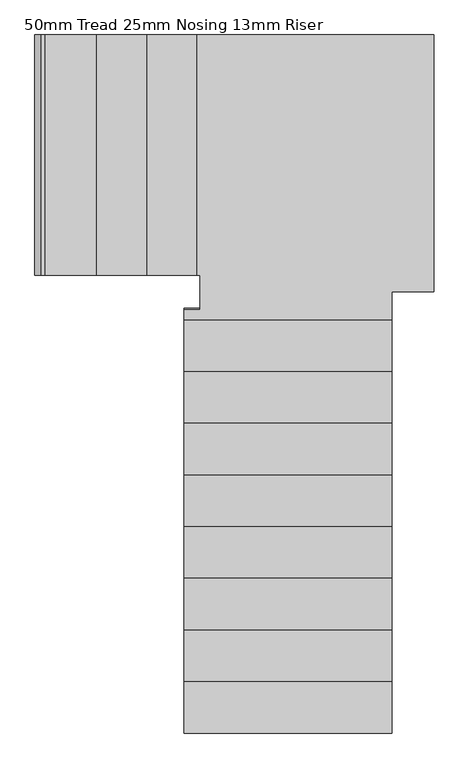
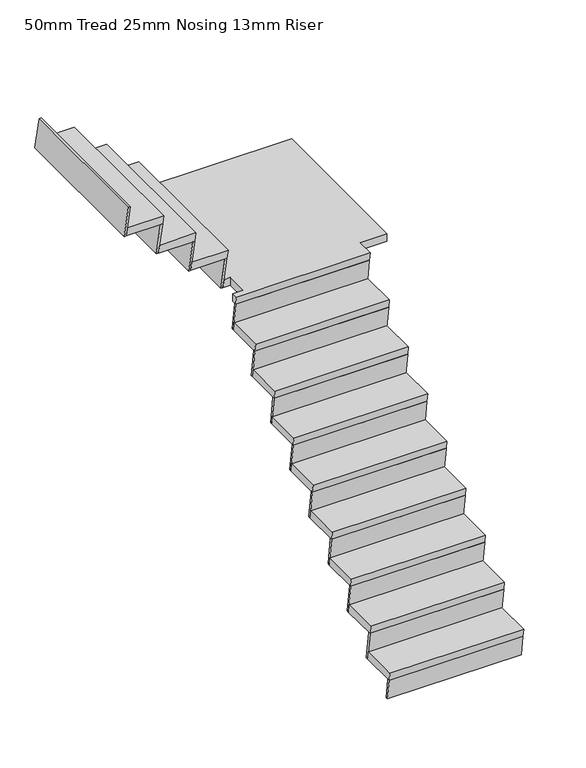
"""IFC4 building model written with IfcOpenShell, lengths in millimetres: stair flight geometry, 50mm Tread 25mm Nosing 13mm Riser."""

import ifcopenshell
import ifcopenshell.guid

model = None  # the IFC model being written
_history = None  # IfcOwnerHistory: only IFC2X3 demands one
_inside = {}  # id of a spatial element -> (the spatial element, [elements in it])
_under = {}  # id of a project, library or spatial element -> (it, [spatial elements below it])
_declared = {}  # id of a project -> (the project, [libraries it declares])
_typed = {}  # id of a type object -> (the type object, [elements of that type])
_made_of = {}  # id of a material, layer set ... -> (it, [elements and type objects made of it])


def new_model(schema):
    """Start an empty IFC model of exactly this schema.

    Asked for "IFC4X3", IfcOpenShell would pick the latest addendum, in which some entities
    have other attributes; the version numbers below select the first issue.
    IFC2X3 requires an IfcOwnerHistory on every rooted entity: one is made here for all.
    """
    global model, _history
    if schema == "IFC4X3":
        model = ifcopenshell.file(schema_version=(4, 3, 0, 0))
    else:
        model = ifcopenshell.file(schema=schema)
    _inside.clear()
    _under.clear()
    _declared.clear()
    _typed.clear()
    _made_of.clear()
    _history = None
    if model.schema == "IFC2X3":
        org = make("IfcOrganization", Name="unknown")
        user = make(
            "IfcPersonAndOrganization",
            ThePerson=make("IfcPerson", FamilyName="unknown"),
            TheOrganization=org,
        )
        app = make(
            "IfcApplication",
            ApplicationDeveloper=org,
            Version="unknown",
            ApplicationFullName="unknown",
            ApplicationIdentifier="unknown",
        )
        _history = make(
            "IfcOwnerHistory",
            OwningUser=user,
            OwningApplication=app,
            ChangeAction="ADDED",
            CreationDate=0,
        )
    return model


def make(cls, **values):
    """One entity of the class cls with the attributes given. An attribute that is None is left unset."""
    return model.create_entity(
        cls, **{name: value for name, value in values.items() if value is not None}
    )


def rooted(cls, **values):
    """An entity with a GlobalId (a new one), such as an element, a storey or a relation."""
    return make(cls, GlobalId=ifcopenshell.guid.new(), OwnerHistory=_history, **values)


def si_unit(unit_type, name, prefix=None):
    """IfcSIUnit, for example si_unit("LENGTHUNIT", "METRE", prefix="MILLI")."""
    return make("IfcSIUnit", UnitType=unit_type, Prefix=prefix, Name=name)


def assignment(units):
    """IfcUnitAssignment: the units of a project."""
    return None if units is None else make("IfcUnitAssignment", Units=units)


def point(xyz):
    """IfcCartesianPoint."""
    return None if xyz is None else make("IfcCartesianPoint", Coordinates=xyz)


def direction(xyz):
    """IfcDirection."""
    return None if xyz is None else make("IfcDirection", DirectionRatios=xyz)


def frame(location, z_axis=None, x_axis=None):
    """IfcAxis2Placement3D, a coordinate frame: its origin and axes. An axis left out is left unset."""
    return make(
        "IfcAxis2Placement3D",
        Location=point(location),
        Axis=direction(z_axis),
        RefDirection=direction(x_axis),
    )


def origin():
    """The frame at (0, 0, 0) with its axes left unset."""
    return frame((0.0, 0.0, 0.0))


def place(relative_to, where):
    """IfcLocalPlacement: puts the frame where relative to a parent placement (None: the world)."""
    return make(
        "IfcLocalPlacement", PlacementRelTo=relative_to, RelativePlacement=where
    )


def context(
    kind, dimensions, precision=None, world=None, true_north=None, identifier=None
):
    """IfcGeometricRepresentationContext, for example the 3D "Model" context."""
    return make(
        "IfcGeometricRepresentationContext",
        ContextIdentifier=identifier,
        ContextType=kind,
        CoordinateSpaceDimension=dimensions,
        Precision=precision,
        WorldCoordinateSystem=world,
        TrueNorth=true_north,
    )


def project(units=None, contexts=None):
    """IfcProject with its units and contexts."""
    return rooted(
        "IfcProject",
        Name="project",
        RepresentationContexts=contexts,
        UnitsInContext=assignment(units),
    )


def spatial(cls, under=None, at=None, **own):
    """A site, building, storey or space (cls), placed at a placement, below another one or the project."""
    s = rooted(cls, ObjectPlacement=at, **own)
    if under is not None:
        _under.setdefault(under.id(), (under, []))[1].append(s)
    return s


def faces_of(points, faces, orient=None, outer=None):
    """IfcFace entities. A face is a list of loops; a loop is a list of indices into points, from 0.

    orient and outer hold one flag for each loop. By default every Orientation is true, the
    first loop of a face is its IfcFaceOuterBound and the others are IfcFaceBound.
    """
    made = []
    for i, loops in enumerate(faces):
        bounds = []
        for j, loop in enumerate(loops):
            is_outer = j == 0 if outer is None else outer[i][j]
            bounds.append(
                make(
                    "IfcFaceOuterBound" if is_outer else "IfcFaceBound",
                    Bound=make("IfcPolyLoop", Polygon=[points[k] for k in loop]),
                    Orientation=True if orient is None else orient[i][j],
                )
            )
        made.append(make("IfcFace", Bounds=bounds))
    return made


def faceted_brep(points, faces, orient=None, outer=None, voids=None):
    """IfcFacetedBrep: a solid bounded by flat faces; with voids (closed shells), ...WithVoids."""
    shared = [point(p) for p in points]
    hull = make("IfcClosedShell", CfsFaces=faces_of(shared, faces, orient, outer))
    if voids is None:
        return make("IfcFacetedBrep", Outer=hull)
    return make(
        "IfcFacetedBrepWithVoids",
        Outer=hull,
        Voids=[
            make(cls, CfsFaces=faces_of(shared, fs, o, b)) for cls, fs, o, b in voids
        ],
    )


def shape(context_of_items, identifier, shape_type, items):
    """IfcShapeRepresentation: the items that make up one representation, for example the "Body"."""
    return make(
        "IfcShapeRepresentation",
        ContextOfItems=context_of_items,
        RepresentationIdentifier=identifier,
        RepresentationType=shape_type,
        Items=items,
    )


def source(mapping_origin, context_of_items, identifier, shape_type, items):
    """IfcRepresentationMap: a shape defined once, which mapped items show again and again."""
    return make(
        "IfcRepresentationMap",
        MappingOrigin=mapping_origin,
        MappedRepresentation=shape(context_of_items, identifier, shape_type, items),
    )


def transform(
    local_origin,
    x_axis=None,
    y_axis=None,
    z_axis=None,
    scale=None,
    scale2=None,
    scale3=None,
    uniform=True,
):
    """IfcCartesianTransformationOperator3D, or its non-uniform kind. x_axis, y_axis, z_axis: its Axis1, 2, 3."""
    if uniform:
        return make(
            "IfcCartesianTransformationOperator3D",
            Axis1=direction(x_axis),
            Axis2=direction(y_axis),
            LocalOrigin=point(local_origin),
            Scale=scale,
            Axis3=direction(z_axis),
        )
    return make(
        "IfcCartesianTransformationOperator3DnonUniform",
        Axis1=direction(x_axis),
        Axis2=direction(y_axis),
        LocalOrigin=point(local_origin),
        Scale=scale,
        Axis3=direction(z_axis),
        Scale2=scale2,
        Scale3=scale3,
    )


def mapped(mapping_source, mapping_target):
    """IfcMappedItem: shows the shape of a source again, moved by a transform."""
    return make(
        "IfcMappedItem", MappingSource=mapping_source, MappingTarget=mapping_target
    )


def made_of(thing, what):
    """Note that an element or type object is made of a material, layer set ...; save() writes the relation."""
    if what is not None:
        _made_of.setdefault(what.id(), (what, []))[1].append(thing)
    return thing


def element(
    cls,
    number,
    at=None,
    inside=None,
    cuts=None,
    type_object=None,
    material=None,
    context=None,
    identifier="Body",
    shape_type=None,
    held_by="IfcProductDefinitionShape",
    body=None,
    shapes=None,
    **own,
):
    """One element of the class cls, such as IfcWall. Its Tag is "e" and its number.

    at: its placement. inside: the storey or other place that contains it. cuts: it is an
    opening in that element (IfcRelVoidsElement). A single representation is given by context,
    identifier, shape_type and body (its items); several are given by shapes. held_by: the class
    of the entity that holds the representations. save() writes the other relations.
    """
    e = rooted(cls, Tag="e%d" % number, ObjectPlacement=at, **own)
    if body is not None:
        shapes = [shape(context, identifier, shape_type, body)]
    if shapes is not None:
        e.Representation = make(held_by, Representations=shapes)
    if inside is not None:
        _inside.setdefault(inside.id(), (inside, []))[1].append(e)
    if cuts is not None:
        rooted(
            "IfcRelVoidsElement", RelatingBuildingElement=cuts, RelatedOpeningElement=e
        )
    if type_object is not None:
        _typed.setdefault(type_object.id(), (type_object, []))[1].append(e)
    return made_of(e, material)


def aggregate(whole, parts):
    """IfcRelAggregates: a whole, such as a stair, and the parts it consists of."""
    return rooted("IfcRelAggregates", RelatingObject=whole, RelatedObjects=parts)


def save(model, path):
    """Write the relations noted so far, then the file.

    IfcRelAggregates (storeys below a building ...), IfcRelContainedInSpatialStructure (elements
    in a storey), IfcRelDefinesByType, IfcRelAssociatesMaterial and IfcRelDeclares: one each for
    every whole, place, type object, material and project.
    """
    for whole, parts in _under.values():
        aggregate(whole, parts)
    for where, things in _inside.values():
        rooted(
            "IfcRelContainedInSpatialStructure",
            RelatedElements=things,
            RelatingStructure=where,
        )
    for kind, things in _typed.values():
        rooted("IfcRelDefinesByType", RelatedObjects=things, RelatingType=kind)
    for what, things in _made_of.values():
        rooted("IfcRelAssociatesMaterial", RelatedObjects=things, RelatingMaterial=what)
    for by, libraries in _declared.values():
        rooted("IfcRelDeclares", RelatingContext=by, RelatedDefinitions=libraries)
    model.write(path)


def stair_flight_50mm_tread_25mm_nosing_13mm_riser_039d3c42(model_context):
    return source(origin(), model_context, "Body", "Brep", [
        faceted_brep([(1649.8, 180.12824, -2157.0461538), (1649.8, 187.0821941, -2207.0461538), (837.0, 187.0821941, -2207.0461538), (837.0, 180.12824, -2157.0461538), (837.0, -46.861813, -2157.0461538), (1649.8, -46.861813, -2157.0461538), (1649.8, -39.9078589, -2207.0461538), (837.0, -39.9078589, -2207.0461538)], [[[0, 1, 2, 3]], [[3, 4, 5, 0]], [[2, 1, 6, 7]], [[4, 3, 2, 7]], [[0, 5, 6, 1]], [[5, 4, 7, 6]]]),
        faceted_brep([(1649.8, -39.9078589, -2207.0461538), (1649.8, -21.861813, -2336.8), (1649.8, -9.2414983, -2336.8), (1649.8, -27.2875442, -2207.0461538), (837.0, -39.9078589, -2207.0461538), (837.0, -27.2875442, -2207.0461538), (837.0, -9.2414983, -2336.8), (837.0, -21.861813, -2336.8)], [[[0, 1, 2, 3]], [[4, 5, 6, 7]], [[1, 0, 4, 7]], [[2, 1, 7, 6]], [[3, 2, 6, 5]], [[0, 3, 5, 4]]]),
        faceted_brep([(1649.8, 162.0821941, -2027.2923077), (1649.8, 187.0821941, -2207.0461538), (1649.8, 199.7025088, -2207.0461538), (1649.8, 174.7025088, -2027.2923077), (837.0, 162.0821941, -2027.2923077), (837.0, 174.7025088, -2027.2923077), (837.0, 199.7025088, -2207.0461538), (837.0, 187.0821941, -2207.0461538)], [[[0, 1, 2, 3]], [[4, 5, 6, 7]], [[1, 0, 4, 7]], [[2, 1, 7, 6]], [[3, 2, 6, 5]], [[0, 3, 5, 4]]]),
        faceted_brep([(837.0, 382.1182929, -1977.2923077), (837.0, 155.12824, -1977.2923077), (1649.8, 155.12824, -1977.2923077), (1649.8, 382.1182929, -1977.2923077), (837.0, 389.0722471, -2027.2923077), (1649.8, 389.0722471, -2027.2923077), (1649.8, 162.0821941, -2027.2923077), (837.0, 162.0821941, -2027.2923077)], [[[0, 1, 2, 3]], [[4, 5, 6, 7]], [[1, 0, 4, 7]], [[3, 2, 6, 5]], [[3, 5, 4, 0]], [[2, 1, 7, 6]]]),
        faceted_brep([(1649.8, 364.0722471, -1847.5384615), (1649.8, 389.0722471, -2027.2923077), (1649.8, 401.6925617, -2027.2923077), (1649.8, 376.6925617, -1847.5384615), (837.0, 364.0722471, -1847.5384615), (837.0, 376.6925617, -1847.5384615), (837.0, 401.6925617, -2027.2923077), (837.0, 389.0722471, -2027.2923077)], [[[0, 1, 2, 3]], [[4, 5, 6, 7]], [[1, 0, 4, 7]], [[2, 1, 7, 6]], [[3, 2, 6, 5]], [[0, 3, 5, 4]]]),
        faceted_brep([(837.0, 584.1083459, -1797.5384615), (837.0, 357.1182929, -1797.5384615), (1649.8, 357.1182929, -1797.5384615), (1649.8, 584.1083459, -1797.5384615), (837.0, 591.0623, -1847.5384615), (1649.8, 591.0623, -1847.5384615), (1649.8, 364.0722471, -1847.5384615), (837.0, 364.0722471, -1847.5384615)], [[[0, 1, 2, 3]], [[4, 5, 6, 7]], [[1, 0, 4, 7]], [[3, 2, 6, 5]], [[3, 5, 4, 0]], [[2, 1, 7, 6]]]),
        faceted_brep([(1649.8, 566.0623, -1667.7846154), (1649.8, 591.0623, -1847.5384615), (1649.8, 603.6826147, -1847.5384615), (1649.8, 578.6826147, -1667.7846154), (837.0, 566.0623, -1667.7846154), (837.0, 578.6826147, -1667.7846154), (837.0, 603.6826147, -1847.5384615), (837.0, 591.0623, -1847.5384615)], [[[0, 1, 2, 3]], [[4, 5, 6, 7]], [[1, 0, 4, 7]], [[2, 1, 7, 6]], [[3, 2, 6, 5]], [[0, 3, 5, 4]]]),
        faceted_brep([(837.0, 786.0983989, -1617.7846154), (837.0, 559.1083459, -1617.7846154), (1649.8, 559.1083459, -1617.7846154), (1649.8, 786.0983989, -1617.7846154), (837.0, 793.052353, -1667.7846154), (1649.8, 793.052353, -1667.7846154), (1649.8, 566.0623, -1667.7846154), (837.0, 566.0623, -1667.7846154)], [[[0, 1, 2, 3]], [[4, 5, 6, 7]], [[1, 0, 4, 7]], [[3, 2, 6, 5]], [[3, 5, 4, 0]], [[2, 1, 7, 6]]]),
        faceted_brep([(1649.8, 768.052353, -1488.0307692), (1649.8, 793.052353, -1667.7846154), (1649.8, 805.6726677, -1667.7846154), (1649.8, 780.6726677, -1488.0307692), (837.0, 768.052353, -1488.0307692), (837.0, 780.6726677, -1488.0307692), (837.0, 805.6726677, -1667.7846154), (837.0, 793.052353, -1667.7846154)], [[[0, 1, 2, 3]], [[4, 5, 6, 7]], [[1, 0, 4, 7]], [[2, 1, 7, 6]], [[3, 2, 6, 5]], [[0, 3, 5, 4]]]),
        faceted_brep([(837.0, 988.0884518, -1438.0307692), (837.0, 761.0983989, -1438.0307692), (1649.8, 761.0983989, -1438.0307692), (1649.8, 988.0884518, -1438.0307692), (837.0, 995.042406, -1488.0307692), (1649.8, 995.042406, -1488.0307692), (1649.8, 768.052353, -1488.0307692), (837.0, 768.052353, -1488.0307692)], [[[0, 1, 2, 3]], [[4, 5, 6, 7]], [[1, 0, 4, 7]], [[3, 2, 6, 5]], [[3, 5, 4, 0]], [[2, 1, 7, 6]]]),
        faceted_brep([(1649.8, 970.042406, -1308.2769231), (1649.8, 995.042406, -1488.0307692), (1649.8, 1007.6627206, -1488.0307692), (1649.8, 982.6627206, -1308.2769231), (837.0, 970.042406, -1308.2769231), (837.0, 982.6627206, -1308.2769231), (837.0, 1007.6627206, -1488.0307692), (837.0, 995.042406, -1488.0307692)], [[[0, 1, 2, 3]], [[4, 5, 6, 7]], [[1, 0, 4, 7]], [[2, 1, 7, 6]], [[3, 2, 6, 5]], [[0, 3, 5, 4]]]),
        faceted_brep([(837.0, 1190.0785048, -1258.2769231), (837.0, 963.0884518, -1258.2769231), (1649.8, 963.0884518, -1258.2769231), (1649.8, 1190.0785048, -1258.2769231), (837.0, 1197.0324589, -1308.2769231), (1649.8, 1197.0324589, -1308.2769231), (1649.8, 970.042406, -1308.2769231), (837.0, 970.042406, -1308.2769231)], [[[0, 1, 2, 3]], [[4, 5, 6, 7]], [[1, 0, 4, 7]], [[3, 2, 6, 5]], [[3, 5, 4, 0]], [[2, 1, 7, 6]]]),
        faceted_brep([(1649.8, 1172.0324589, -1128.5230769), (1649.8, 1197.0324589, -1308.2769231), (1649.8, 1209.6527736, -1308.2769231), (1649.8, 1184.6527736, -1128.5230769), (837.0, 1172.0324589, -1128.5230769), (837.0, 1184.6527736, -1128.5230769), (837.0, 1209.6527736, -1308.2769231), (837.0, 1197.0324589, -1308.2769231)], [[[0, 1, 2, 3]], [[4, 5, 6, 7]], [[1, 0, 4, 7]], [[2, 1, 7, 6]], [[3, 2, 6, 5]], [[0, 3, 5, 4]]]),
        faceted_brep([(837.0, 1392.0685577, -1078.5230769), (837.0, 1165.0785048, -1078.5230769), (1649.8, 1165.0785048, -1078.5230769), (1649.8, 1392.0685577, -1078.5230769), (837.0, 1399.0225119, -1128.5230769), (1649.8, 1399.0225119, -1128.5230769), (1649.8, 1172.0324589, -1128.5230769), (837.0, 1172.0324589, -1128.5230769)], [[[0, 1, 2, 3]], [[4, 5, 6, 7]], [[1, 0, 4, 7]], [[3, 2, 6, 5]], [[3, 5, 4, 0]], [[2, 1, 7, 6]]]),
        faceted_brep([(1649.8, 1576.0125648, -769.0153846), (1649.8, 1601.0125648, -948.7692308), (1649.8, 1613.6328795, -948.7692308), (1649.8, 1588.6328795, -769.0153846), (837.0, 1576.0125648, -769.0153846), (837.0, 1588.6328795, -769.0153846), (837.0, 1613.6328795, -948.7692308), (837.0, 1601.0125648, -948.7692308)], [[[0, 1, 2, 3]], [[4, 5, 6, 7]], [[1, 0, 4, 7]], [[2, 1, 7, 6]], [[3, 2, 6, 5]], [[0, 3, 5, 4]]]),
        faceted_brep([(861.3237179, 1741.3, -719.0153846), (900.5, 1741.3, -719.0153846), (900.5, 1607.95, -719.0153846), (837.0, 1607.95, -719.0153846), (837.0, 1569.0586107, -719.0153846), (1649.8, 1569.0586107, -719.0153846), (1649.8, 1678.3, -719.0153846), (1814.9, 1678.3, -719.0153846), (1814.9, 2681.1, -719.0153846), (861.3237179, 2681.1, -719.0153846), (900.5, 1607.95, -769.0153846), (900.5, 1741.3, -769.0153846), (854.3697638, 1741.3, -769.0153846), (854.3697638, 2681.1, -769.0153846), (1814.9, 2681.1, -769.0153846), (1814.9, 1678.3, -769.0153846), (1649.8, 1678.3, -769.0153846), (1649.8, 1576.0125648, -769.0153846), (837.0, 1576.0125648, -769.0153846), (837.0, 1607.95, -769.0153846)], [[[0, 1, 2, 3, 4, 5, 6, 7, 8, 9]], [[10, 11, 12, 13, 14, 15, 16, 17, 18, 19]], [[1, 0, 12, 11]], [[6, 5, 17, 16]], [[9, 13, 12, 0]], [[5, 4, 18, 17]], [[2, 1, 11, 10]], [[3, 2, 10, 19]], [[4, 3, 19, 18]], [[7, 6, 16, 15]], [[8, 7, 15, 14]], [[9, 8, 14, 13]]]),
        faceted_brep([(1649.8, 1374.0225119, -948.7692308), (1649.8, 1399.0225119, -1128.5230769), (1649.8, 1411.6428265, -1128.5230769), (1649.8, 1386.6428265, -948.7692308), (837.0, 1374.0225119, -948.7692308), (837.0, 1386.6428265, -948.7692308), (837.0, 1411.6428265, -1128.5230769), (837.0, 1399.0225119, -1128.5230769)], [[[0, 1, 2, 3]], [[4, 5, 6, 7]], [[1, 0, 4, 7]], [[2, 1, 7, 6]], [[3, 2, 6, 5]], [[0, 3, 5, 4]]]),
        faceted_brep([(837.0, 1594.0586107, -898.7692308), (837.0, 1367.0685577, -898.7692308), (1649.8, 1367.0685577, -898.7692308), (1649.8, 1594.0586107, -898.7692308), (837.0, 1601.0125648, -948.7692308), (1649.8, 1601.0125648, -948.7692308), (1649.8, 1374.0225119, -948.7692308), (837.0, 1374.0225119, -948.7692308)], [[[0, 1, 2, 3]], [[4, 5, 6, 7]], [[1, 0, 4, 7]], [[3, 2, 6, 5]], [[3, 5, 4, 0]], [[2, 1, 7, 6]]]),
        faceted_brep([(879.3697638, 2681.1, -589.2615385), (854.3697638, 2681.1, -769.0153846), (841.7494492, 2681.1, -769.0153846), (866.7494492, 2681.1, -589.2615385), (879.3697638, 1741.3, -589.2615385), (866.7494492, 1741.3, -589.2615385), (841.7494492, 1741.3, -769.0153846), (854.3697638, 1741.3, -769.0153846)], [[[0, 1, 2, 3]], [[4, 5, 6, 7]], [[1, 0, 4, 7]], [[2, 1, 7, 6]], [[3, 2, 6, 5]], [[0, 3, 5, 4]]]),
        faceted_brep([(665.4596154, 1741.3, -539.2615385), (886.3237179, 1741.3, -539.2615385), (886.3237179, 2681.1, -539.2615385), (665.4596154, 2681.1, -539.2615385), (658.5056613, 1741.3, -589.2615385), (658.5056613, 2681.1, -589.2615385), (879.3697638, 2681.1, -589.2615385), (879.3697638, 1741.3, -589.2615385)], [[[0, 1, 2, 3]], [[4, 5, 6, 7]], [[1, 0, 4, 7]], [[3, 2, 6, 5]], [[3, 5, 4, 0]], [[2, 1, 7, 6]]]),
        faceted_brep([(683.5056613, 2681.1, -409.5076923), (658.5056613, 2681.1, -589.2615385), (645.8853466, 2681.1, -589.2615385), (670.8853466, 2681.1, -409.5076923), (683.5056613, 1741.3, -409.5076923), (670.8853466, 1741.3, -409.5076923), (645.8853466, 1741.3, -589.2615385), (658.5056613, 1741.3, -589.2615385)], [[[0, 1, 2, 3]], [[4, 5, 6, 7]], [[1, 0, 4, 7]], [[2, 1, 7, 6]], [[3, 2, 6, 5]], [[0, 3, 5, 4]]]),
        faceted_brep([(469.5955128, 1741.3, -359.5076923), (690.4596154, 1741.3, -359.5076923), (690.4596154, 2681.1, -359.5076923), (469.5955128, 2681.1, -359.5076923), (462.6415587, 1741.3, -409.5076923), (462.6415587, 2681.1, -409.5076923), (683.5056613, 2681.1, -409.5076923), (683.5056613, 1741.3, -409.5076923)], [[[0, 1, 2, 3]], [[4, 5, 6, 7]], [[1, 0, 4, 7]], [[3, 2, 6, 5]], [[3, 5, 4, 0]], [[2, 1, 7, 6]]]),
        faceted_brep([(487.6415587, 2681.1, -229.7538462), (462.6415587, 2681.1, -409.5076923), (450.021244, 2681.1, -409.5076923), (475.021244, 2681.1, -229.7538462), (487.6415587, 1741.3, -229.7538462), (475.021244, 1741.3, -229.7538462), (450.021244, 1741.3, -409.5076923), (462.6415587, 1741.3, -409.5076923)], [[[0, 1, 2, 3]], [[4, 5, 6, 7]], [[1, 0, 4, 7]], [[2, 1, 7, 6]], [[3, 2, 6, 5]], [[0, 3, 5, 4]]]),
        faceted_brep([(291.7774561, 2681.1, -50.0), (266.7774561, 2681.1, -229.7538462), (254.1571415, 2681.1, -229.7538462), (279.1571415, 2681.1, -50.0), (291.7774561, 1741.3, -50.0), (279.1571415, 1741.3, -50.0), (254.1571415, 1741.3, -229.7538462), (266.7774561, 1741.3, -229.7538462)], [[[0, 1, 2, 3]], [[4, 5, 6, 7]], [[1, 0, 4, 7]], [[2, 1, 7, 6]], [[3, 2, 6, 5]], [[0, 3, 5, 4]]]),
        faceted_brep([(273.7314103, 1741.3, -179.7538462), (494.5955128, 1741.3, -179.7538462), (494.5955128, 2681.1, -179.7538462), (273.7314103, 2681.1, -179.7538462), (266.7774561, 1741.3, -229.7538462), (266.7774561, 2681.1, -229.7538462), (487.6415587, 2681.1, -229.7538462), (487.6415587, 1741.3, -229.7538462)], [[[0, 1, 2, 3]], [[4, 5, 6, 7]], [[1, 0, 4, 7]], [[3, 2, 6, 5]], [[3, 5, 4, 0]], [[2, 1, 7, 6]]]),
    ])


if __name__ == "__main__":
    model = new_model("IFC4")
    model_context = context("Model", 3, world=origin())
    ifc_project = project(units=[si_unit("LENGTHUNIT", "METRE", prefix="MILLI")], contexts=[model_context])
    site = spatial("IfcSite", under=ifc_project)
    building = spatial("IfcBuilding", under=site)
    placement = place(None, origin())
    stair_flight_50mm_tread_25mm_nosing_13mm_riser_shape = stair_flight_50mm_tread_25mm_nosing_13mm_riser_039d3c42(model_context)
    element("IfcStairFlight", 1, ObjectType="50mm Tread 25mm Nosing 13mm Riser", at=placement, inside=building, context=model_context, shape_type="MappedRepresentation", body=[
        mapped(stair_flight_50mm_tread_25mm_nosing_13mm_riser_shape, transform((0.0, 0.0, 0.0), x_axis=(1.0, 0.0, 0.0), y_axis=(0.0, 1.0, 0.0), z_axis=(0.0, 0.0, 1.0))),
    ])
    save(model, "model.ifc")
